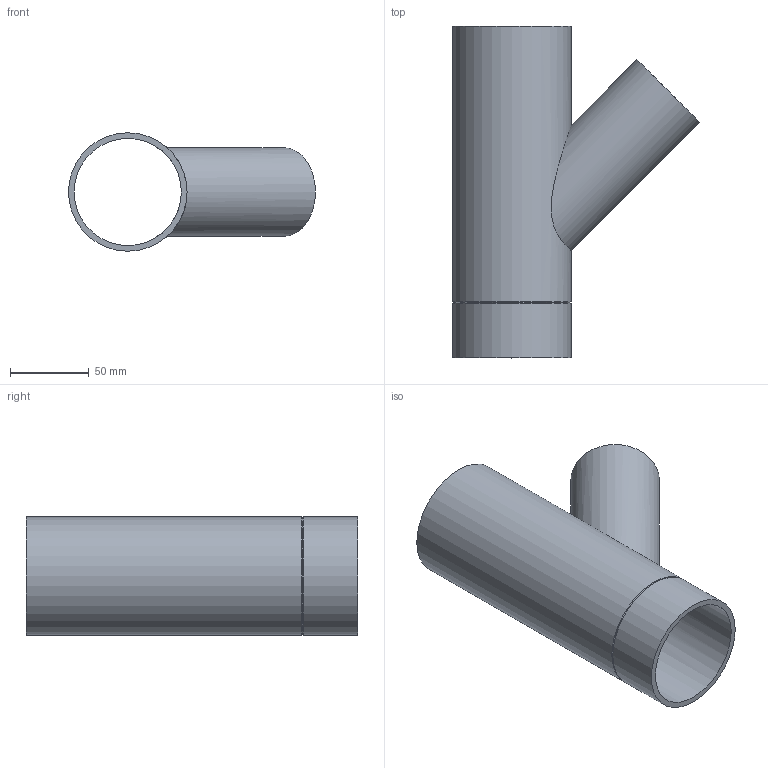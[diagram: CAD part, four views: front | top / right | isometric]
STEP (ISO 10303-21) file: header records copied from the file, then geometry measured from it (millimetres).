
FILE_DESCRIPTION(/* description */ (''),/* implementation_level */ '2;1');
FILE_NAME(/* name */ 'Z:\Geberit\Export\Export18\Abzweig Gerade_Ipart\stp\307054.stp',/* time_stamp */ '2014-08-26T21:50:45+02:00',/* author */ ('ML'),/* organization */ (''),/* preprocessor_version */ 'ST-DEVELOPER v15.2',/* originating_system */ 'Autodesk Inventor 2014',/* authorisation */ '');
FILE_SCHEMA (('AUTOMOTIVE_DESIGN { 1 0 10303 214 3 1 1 }'));
Length unit declared in the file: millimetre
Products named in the file (1): 307054
Bounding box: 156.29 x 210 x 75 mm (x, y, z)
Volume: 208939.9 mm3; surface area: 122057.1 mm2
Topology: 1 solids, 1 shells, 10 faces, 25 edges, 17 vertices
Faces by surface type: cylinder 5, plane 3, cone 2
Full cylindrical faces by diameter (mm): 49.6 x1, 56 x1, 67.8 x1, 75 x2
Entity records: 359 total; most frequent: CARTESIAN_POINT 155, DIRECTION 40, EDGE_LOOP 22, ORIENTED_EDGE 22, AXIS2_PLACEMENT_3D 20, FACE_BOUND 17, VERTEX_POINT 11, EDGE_CURVE 11
